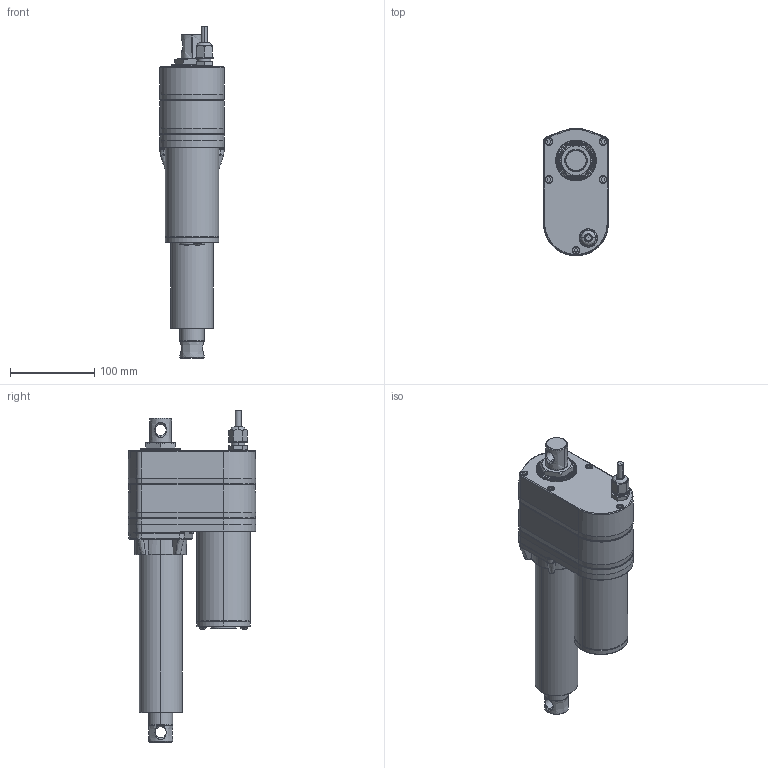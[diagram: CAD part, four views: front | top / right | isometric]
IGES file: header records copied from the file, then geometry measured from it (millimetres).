
Start section: SolidWorks IGES file using analytic representation for surfaces
Global section: file name: D:\3D-Design-20210323\A-Outer-3D\ID10BT-LT&POT\ID10BT-24-4-A-102-LT-POT\ID10BT-24-4-A-102-LT-POT.IGS; native system: SolidWorks 2020; preprocessor: SolidWorks 2020; author: yuan; date: 211112.104225; units: millimetre
Bounding box: 77.15 x 151.65 x 394.15 mm (x, y, z)
Surface area: 162069.1 mm2 (no closed solid volume)
Topology: 0 solids, 0 shells, 936 faces, 9564 edges, 9549 vertices
Faces by surface type: bspline 688, revolution 248
